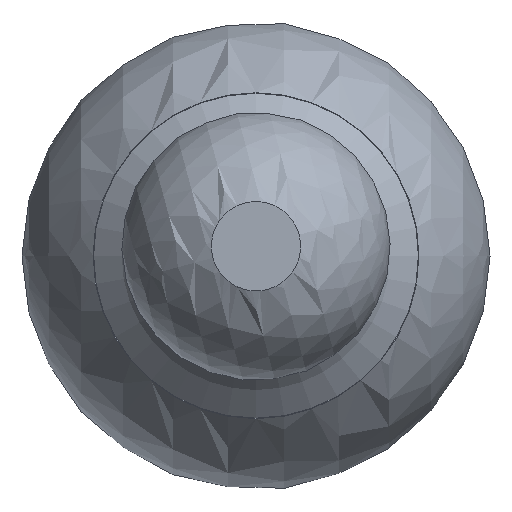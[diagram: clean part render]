
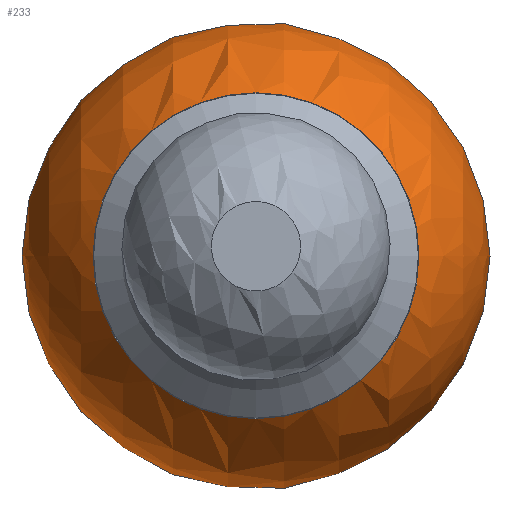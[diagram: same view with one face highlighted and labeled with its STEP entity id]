
A CAD part, top view. The second image highlights one B-rep face of the part: STEP entity #233.
In plain terms, the highlighted spherical face has radius 17 mm.
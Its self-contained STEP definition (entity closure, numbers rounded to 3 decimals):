
#29=SPHERICAL_SURFACE('',#358,17.);
#66=FACE_OUTER_BOUND('',#80,.T.);
#80=EDGE_LOOP('',(#210,#211,#212,#213,#214,#215,#216));
#107=CIRCLE('',#359,11.839);
#108=CIRCLE('',#360,17.);
#109=CIRCLE('',#361,11.839);
#110=CIRCLE('',#362,17.);
#111=CIRCLE('',#363,11.839);
#131=VERTEX_POINT('',#526);
#132=VERTEX_POINT('',#527);
#133=VERTEX_POINT('',#529);
#134=VERTEX_POINT('',#531);
#135=VERTEX_POINT('',#533);
#159=EDGE_CURVE('',#131,#132,#107,.T.);
#160=EDGE_CURVE('',#132,#133,#108,.T.);
#161=EDGE_CURVE('',#132,#134,#109,.T.);
#162=EDGE_CURVE('',#135,#134,#110,.T.);
#163=EDGE_CURVE('',#134,#131,#111,.T.);
#210=ORIENTED_EDGE('',*,*,#159,.T.);
#211=ORIENTED_EDGE('',*,*,#160,.T.);
#212=ORIENTED_EDGE('',*,*,#160,.F.);
#213=ORIENTED_EDGE('',*,*,#161,.T.);
#214=ORIENTED_EDGE('',*,*,#162,.F.);
#215=ORIENTED_EDGE('',*,*,#162,.T.);
#216=ORIENTED_EDGE('',*,*,#163,.T.);
#233=ADVANCED_FACE('',(#66),#29,.T.);
#358=AXIS2_PLACEMENT_3D('',#525,#445,#446);
#359=AXIS2_PLACEMENT_3D('',#528,#447,#448);
#360=AXIS2_PLACEMENT_3D('',#530,#449,#450);
#361=AXIS2_PLACEMENT_3D('',#532,#451,#452);
#362=AXIS2_PLACEMENT_3D('',#534,#453,#454);
#363=AXIS2_PLACEMENT_3D('',#535,#455,#456);
#445=DIRECTION('center_axis',(1.,0.,0.));
#446=DIRECTION('ref_axis',(0.,-1.,0.));
#447=DIRECTION('center_axis',(0.,-1.,0.));
#448=DIRECTION('ref_axis',(0.,0.,
1.));
#449=DIRECTION('center_axis',(0.,0.,
1.));
#450=DIRECTION('ref_axis',(0.,1.,0.));
#451=DIRECTION('center_axis',(0.,-1.,0.));
#452=DIRECTION('ref_axis',(0.,0.,
1.));
#453=DIRECTION('center_axis',(0.,0.,
1.));
#454=DIRECTION('ref_axis',(0.,1.,0.));
#455=DIRECTION('center_axis',(0.,-1.,0.));
#456=DIRECTION('ref_axis',(0.,0.,
1.));
#525=CARTESIAN_POINT('Origin',(0.,0.,
0.));
#526=CARTESIAN_POINT('',(0.,12.2,11.839));
#527=CARTESIAN_POINT('',(-11.839,12.2,0.));
#528=CARTESIAN_POINT('Origin',(0.,12.2,0.));
#529=CARTESIAN_POINT('',(-17.,0.,0.));
#530=CARTESIAN_POINT('Origin',(0.,0.,
0.));
#531=CARTESIAN_POINT('',(11.839,12.2,0.));
#532=CARTESIAN_POINT('Origin',(0.,12.2,0.));
#533=CARTESIAN_POINT('',(17.,0.,0.));
#534=CARTESIAN_POINT('Origin',(0.,0.,
0.));
#535=CARTESIAN_POINT('Origin',(0.,12.2,0.));
